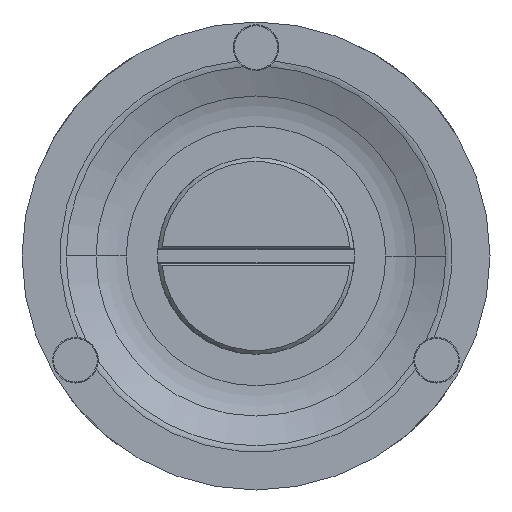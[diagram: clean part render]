
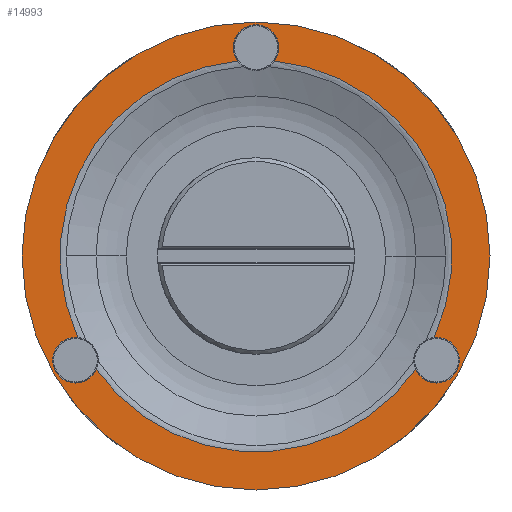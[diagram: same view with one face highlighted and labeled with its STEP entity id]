
A CAD part, front view. The second image highlights one B-rep face of the part: STEP entity #14993.
In plain terms, the highlighted planar face has unit normal (0, -1, 0).
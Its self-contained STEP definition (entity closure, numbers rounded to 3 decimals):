
#397 = AXIS2_PLACEMENT_3D ( 'NONE', #5417, #11767, #18058 ) ;
#588 = ORIENTED_EDGE ( 'NONE', *, *, #4257, .T. ) ;
#1131 = DIRECTION ( 'NONE',  ( 0., -1., 0. ) ) ;
#1188 = EDGE_CURVE ( 'NONE', #6092, #2738, #13670, .T. ) ;
#1523 = ORIENTED_EDGE ( 'NONE', *, *, #12888, .F. ) ;
#1699 = VERTEX_POINT ( 'NONE', #15144 ) ;
#1841 = DIRECTION ( 'NONE',  ( 0., 0., -1. ) ) ;
#2011 = DIRECTION ( 'NONE',  ( 0., -1., 0. ) ) ;
#2039 = ORIENTED_EDGE ( 'NONE', *, *, #5604, .F. ) ;
#2125 = CARTESIAN_POINT ( 'NONE',  ( 0., 0., 26.5 ) ) ;
#2157 = VERTEX_POINT ( 'NONE', #5293 ) ;
#2304 = CARTESIAN_POINT ( 'NONE',  ( 0., 0., 0. ) ) ;
#2357 = CARTESIAN_POINT ( 'NONE',  ( -22.95, 0., -10.35 ) ) ;
#2418 = CARTESIAN_POINT ( 'NONE',  ( 0., 0., 0. ) ) ;
#2425 = EDGE_CURVE ( 'NONE', #6092, #17155, #18497, .T. ) ;
#2469 = CIRCLE ( 'NONE', #18155, 24.9 ) ;
#2506 = AXIS2_PLACEMENT_3D ( 'NONE', #2125, #2011, #14783 ) ;
#2559 = CARTESIAN_POINT ( 'NONE',  ( 0., 0., 0. ) ) ;
#2569 = EDGE_CURVE ( 'NONE', #2157, #4805, #14537, .T. ) ;
#2658 = CARTESIAN_POINT ( 'NONE',  ( 0., 0., 0. ) ) ;
#2703 = EDGE_LOOP ( 'NONE', ( #15490, #2731, #7921, #588, #6042, #2039, #20204, #6149, #7912, #4940, #16270 ) ) ;
#2731 = ORIENTED_EDGE ( 'NONE', *, *, #3014, .F. ) ;
#2738 = VERTEX_POINT ( 'NONE', #4266 ) ;
#2828 = DIRECTION ( 'NONE',  ( 0., 0., 1. ) ) ;
#2938 = VERTEX_POINT ( 'NONE', #2357 ) ;
#3014 = EDGE_CURVE ( 'NONE', #15996, #4805, #3502, .T. ) ;
#3502 = CIRCLE ( 'NONE', #2506, 2.9 ) ;
#3774 = AXIS2_PLACEMENT_3D ( 'NONE', #16157, #7807, #1841 ) ;
#3872 = DIRECTION ( 'NONE',  ( 0., 0., 1. ) ) ;
#4102 = CIRCLE ( 'NONE', #17444, 2.9 ) ;
#4206 = DIRECTION ( 'NONE',  ( 0.866, 0., 0.5 ) ) ;
#4257 = EDGE_CURVE ( 'NONE', #14642, #19984, #2469, .T. ) ;
#4266 = CARTESIAN_POINT ( 'NONE',  ( 22.95, 0., -16.15 ) ) ;
#4388 = DIRECTION ( 'NONE',  ( 0., 1., 0. ) ) ;
#4697 = FACE_BOUND ( 'NONE', #2703, .T. ) ;
#4805 = VERTEX_POINT ( 'NONE', #5743 ) ;
#4898 = CARTESIAN_POINT ( 'NONE',  ( -20.297, 0., -14.423 ) ) ;
#4940 = ORIENTED_EDGE ( 'NONE', *, *, #6059, .F. ) ;
#5293 = CARTESIAN_POINT ( 'NONE',  ( -22.639, 0., -10.367 ) ) ;
#5298 = DIRECTION ( 'NONE',  ( 0.866, 0., 0.5 ) ) ;
#5393 = EDGE_CURVE ( 'NONE', #2157, #2938, #6088, .T. ) ;
#5417 = CARTESIAN_POINT ( 'NONE',  ( -22.95, 0., -13.25 ) ) ;
#5604 = EDGE_CURVE ( 'NONE', #2738, #1699, #4102, .T. ) ;
#5743 = CARTESIAN_POINT ( 'NONE',  ( -2.342, 0., 24.79 ) ) ;
#5777 = CIRCLE ( 'NONE', #3774, 2.9 ) ;
#5873 = CARTESIAN_POINT ( 'NONE',  ( 0., 0., 0. ) ) ;
#6042 = ORIENTED_EDGE ( 'NONE', *, *, #14274, .F. ) ;
#6059 = EDGE_CURVE ( 'NONE', #2938, #10225, #5777, .T. ) ;
#6088 = CIRCLE ( 'NONE', #11411, 2.9 ) ;
#6092 = VERTEX_POINT ( 'NONE', #10362 ) ;
#6149 = ORIENTED_EDGE ( 'NONE', *, *, #2425, .T. ) ;
#6177 = AXIS2_PLACEMENT_3D ( 'NONE', #2304, #8780, #3872 ) ;
#6207 = CARTESIAN_POINT ( 'NONE',  ( 0., 0., 29.4 ) ) ;
#6225 = DIRECTION ( 'NONE',  ( 0., 1., 0. ) ) ;
#6387 = AXIS2_PLACEMENT_3D ( 'NONE', #2418, #8484, #14976 ) ;
#6538 = CARTESIAN_POINT ( 'NONE',  ( 0., 0., 29.75 ) ) ;
#6696 = CARTESIAN_POINT ( 'NONE',  ( 22.639, 0., -10.367 ) ) ;
#6844 = DIRECTION ( 'NONE',  ( 0., -1., 0. ) ) ;
#7234 = VERTEX_POINT ( 'NONE', #6538 ) ;
#7365 = DIRECTION ( 'NONE',  ( 0., 1., 0. ) ) ;
#7760 = CARTESIAN_POINT ( 'NONE',  ( 2.342, 0., 24.79 ) ) ;
#7807 = DIRECTION ( 'NONE',  ( 0., -1., 0. ) ) ;
#7912 = ORIENTED_EDGE ( 'NONE', *, *, #17287, .F. ) ;
#7921 = ORIENTED_EDGE ( 'NONE', *, *, #17643, .F. ) ;
#8484 = DIRECTION ( 'NONE',  ( 0., 1., 0. ) ) ;
#8490 = CARTESIAN_POINT ( 'NONE',  ( 0., 0., 26.5 ) ) ;
#8780 = DIRECTION ( 'NONE',  ( 0., 1., 0. ) ) ;
#9392 = CIRCLE ( 'NONE', #17735, 29.75 ) ;
#9741 = DIRECTION ( 'NONE',  ( 0., -1., 0. ) ) ;
#10225 = VERTEX_POINT ( 'NONE', #12538 ) ;
#10362 = CARTESIAN_POINT ( 'NONE',  ( 20.297, 0., -14.423 ) ) ;
#10821 = CIRCLE ( 'NONE', #17180, 2.9 ) ;
#11411 = AXIS2_PLACEMENT_3D ( 'NONE', #15449, #1131, #13669 ) ;
#11767 = DIRECTION ( 'NONE',  ( 0., -1., 0. ) ) ;
#12210 = PLANE ( 'NONE',  #15749 ) ;
#12412 = DIRECTION ( 'NONE',  ( 0., 1., 0. ) ) ;
#12538 = CARTESIAN_POINT ( 'NONE',  ( -22.95, 0., -16.15 ) ) ;
#12888 = EDGE_CURVE ( 'NONE', #7234, #19032, #20011, .T. ) ;
#13669 = DIRECTION ( 'NONE',  ( 0., 0., -1. ) ) ;
#13670 = CIRCLE ( 'NONE', #17008, 2.9 ) ;
#14274 = EDGE_CURVE ( 'NONE', #1699, #19984, #10821, .T. ) ;
#14537 = CIRCLE ( 'NONE', #6177, 24.9 ) ;
#14560 = CARTESIAN_POINT ( 'NONE',  ( 0., 0., -29.75 ) ) ;
#14642 = VERTEX_POINT ( 'NONE', #7760 ) ;
#14783 = DIRECTION ( 'NONE',  ( -0.866, 0., 0.5 ) ) ;
#14791 = DIRECTION ( 'NONE',  ( 0.866, 0., 0.5 ) ) ;
#14976 = DIRECTION ( 'NONE',  ( 0., 0., 1. ) ) ;
#14993 = ADVANCED_FACE ( 'NONE', ( #4697, #17344 ), #12210, .F. ) ;
#15144 = CARTESIAN_POINT ( 'NONE',  ( 22.95, 0., -10.35 ) ) ;
#15449 = CARTESIAN_POINT ( 'NONE',  ( -22.95, 0., -13.25 ) ) ;
#15490 = ORIENTED_EDGE ( 'NONE', *, *, #2569, .T. ) ;
#15749 = AXIS2_PLACEMENT_3D ( 'NONE', #18597, #12412, #2828 ) ;
#15996 = VERTEX_POINT ( 'NONE', #6207 ) ;
#16105 = EDGE_LOOP ( 'NONE', ( #18357, #1523 ) ) ;
#16157 = CARTESIAN_POINT ( 'NONE',  ( -22.95, 0., -13.25 ) ) ;
#16270 = ORIENTED_EDGE ( 'NONE', *, *, #5393, .F. ) ;
#16325 = DIRECTION ( 'NONE',  ( -0.866, 0., 0.5 ) ) ;
#16440 = AXIS2_PLACEMENT_3D ( 'NONE', #8490, #9741, #16325 ) ;
#16665 = CARTESIAN_POINT ( 'NONE',  ( 22.95, 0., -13.25 ) ) ;
#17008 = AXIS2_PLACEMENT_3D ( 'NONE', #19614, #19289, #5298 ) ;
#17142 = DIRECTION ( 'NONE',  ( 0., 0., 1. ) ) ;
#17155 = VERTEX_POINT ( 'NONE', #4898 ) ;
#17180 = AXIS2_PLACEMENT_3D ( 'NONE', #19486, #6844, #14791 ) ;
#17287 = EDGE_CURVE ( 'NONE', #10225, #17155, #18754, .T. ) ;
#17344 = FACE_OUTER_BOUND ( 'NONE', #16105, .T. ) ;
#17444 = AXIS2_PLACEMENT_3D ( 'NONE', #16665, #20202, #4206 ) ;
#17643 = EDGE_CURVE ( 'NONE', #14642, #15996, #18434, .T. ) ;
#17735 = AXIS2_PLACEMENT_3D ( 'NONE', #2658, #6225, #18746 ) ;
#17845 = EDGE_CURVE ( 'NONE', #19032, #7234, #9392, .T. ) ;
#18058 = DIRECTION ( 'NONE',  ( 0., 0., -1. ) ) ;
#18155 = AXIS2_PLACEMENT_3D ( 'NONE', #5873, #4388, #17142 ) ;
#18208 = AXIS2_PLACEMENT_3D ( 'NONE', #2559, #7365, #18638 ) ;
#18357 = ORIENTED_EDGE ( 'NONE', *, *, #17845, .F. ) ;
#18434 = CIRCLE ( 'NONE', #16440, 2.9 ) ;
#18497 = CIRCLE ( 'NONE', #18208, 24.9 ) ;
#18597 = CARTESIAN_POINT ( 'NONE',  ( 0., 0., 0. ) ) ;
#18638 = DIRECTION ( 'NONE',  ( 0., 0., 1. ) ) ;
#18746 = DIRECTION ( 'NONE',  ( 0., 0., 1. ) ) ;
#18754 = CIRCLE ( 'NONE', #397, 2.9 ) ;
#19032 = VERTEX_POINT ( 'NONE', #14560 ) ;
#19289 = DIRECTION ( 'NONE',  ( 0., -1., 0. ) ) ;
#19486 = CARTESIAN_POINT ( 'NONE',  ( 22.95, 0., -13.25 ) ) ;
#19614 = CARTESIAN_POINT ( 'NONE',  ( 22.95, 0., -13.25 ) ) ;
#19984 = VERTEX_POINT ( 'NONE', #6696 ) ;
#20011 = CIRCLE ( 'NONE', #6387, 29.75 ) ;
#20202 = DIRECTION ( 'NONE',  ( 0., -1., 0. ) ) ;
#20204 = ORIENTED_EDGE ( 'NONE', *, *, #1188, .F. ) ;
